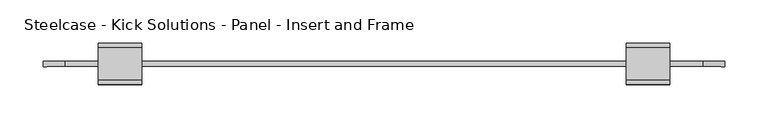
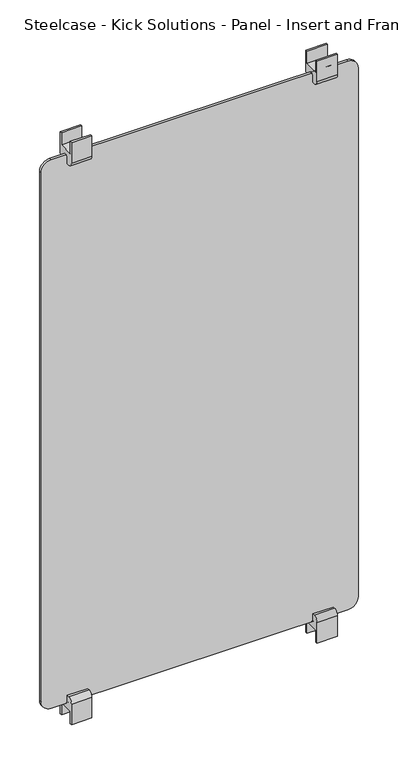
"""IFC4 building model written with IfcOpenShell, lengths in millimetres: furniture geometry, Steelcase - Kick Solutions - Panel - Insert and Frame : Laminate - 66H x 36W."""

from ifc_helpers import new_model, si_unit, point, frame, frame_2d, origin, place, context, project, spatial, polyline, circle_curve, trimmed, segment, composite_curve, outline, extrude, source, transform, mapped, element, save


def steelcase_kick_solutions_panel_insert_and_frame_b636e8bc(model_context):
    return source(origin(), model_context, "Body", "SweptSolid", [
        extrude(outline(composite_curve([segment(polyline([(5.3821989, 1651.0), (10.144699, 1651.0), (10.144699, 1596.313221)]), True, "CONTINUOUS"), segment(trimmed(circle_curve(frame_2d((-1.6831687, 1596.313221)), 11.8278677), [point((10.144699, 1596.313221))], [point((-1.6831687, 1584.4853533))], False, "CARTESIAN"), True, "CONTINUOUS"), segment(polyline([(-1.6831687, 1584.4853533), (-7.3178012, 1584.4853533), (-7.3178012, 1599.8857521)]), True, "CONTINUOUS"), segment(trimmed(circle_curve(frame_2d((-13.667801, 1599.8857521)), 6.3499998), [point((-7.3178012, 1599.8857521))], [point((-20.0178007, 1599.8857521))], True, "CARTESIAN"), True, "CONTINUOUS"), segment(polyline([(-20.0178007, 1599.8857521), (-20.0178007, 1584.4853527), (-25.2074988, 1584.4853527)]), True, "CONTINUOUS"), segment(trimmed(circle_curve(frame_2d((-25.2074988, 1596.7581549)), 12.2728022), [point((-25.2074988, 1584.4853527))], [point((-37.480301, 1596.7581549))], False, "CARTESIAN"), True, "CONTINUOUS"), segment(polyline([(-37.480301, 1596.7581549), (-37.480301, 1651.0), (-32.7177988, 1651.0), (-32.7177988, 1619.2499758), (5.3821989, 1619.2499758), (5.3821989, 1651.0)]), True, "CONTINUOUS")], self_intersect=False)), frame((737.5148583, 0.0, 0.0), z_axis=(1.0, 0.0, 0.0), x_axis=(0.0, 1.0, 0.0)), (0.0, 0.0, 1.0), 50.8),
        extrude(outline(composite_curve([segment(polyline([(5.3821989, 120.6499576), (5.3821989, 152.3999815), (-32.7177988, 152.3999815), (-32.7177988, 120.6499576), (-37.480301, 120.6499576), (-37.480301, 174.8918024)]), True, "CONTINUOUS"), segment(trimmed(circle_curve(frame_2d((-25.2074988, 174.8918024)), 12.2728022), [point((-37.480301, 174.8918024))], [point((-25.2074988, 187.1646046))], False, "CARTESIAN"), True, "CONTINUOUS"), segment(polyline([(-25.2074988, 187.1646046), (-20.0178007, 187.1646046), (-20.0178007, 171.7642058)]), True, "CONTINUOUS"), segment(trimmed(circle_curve(frame_2d((-13.667801, 171.7642058)), 6.3499998), [point((-20.0178007, 171.7642058))], [point((-7.3178012, 171.7642058))], True, "CARTESIAN"), True, "CONTINUOUS"), segment(polyline([(-7.3178012, 171.7642058), (-7.3178012, 187.1646046), (-1.6831687, 187.1646046)]), True, "CONTINUOUS"), segment(trimmed(circle_curve(frame_2d((-1.6831687, 175.3367369)), 11.8278677), [point((-1.6831687, 187.1646046))], [point((10.144699, 175.3367369))], False, "CARTESIAN"), True, "CONTINUOUS"), segment(polyline([(10.144699, 175.3367369), (10.144699, 120.6499576), (5.3821989, 120.6499576)]), True, "CONTINUOUS")], self_intersect=False)), frame((737.5148583, 0.0, 0.0), z_axis=(1.0, 0.0, 0.0), x_axis=(0.0, 1.0, 0.0)), (0.0, 0.0, 1.0), 50.8),
        extrude(outline(composite_curve([segment(polyline([(5.3821989, 1651.0), (10.144699, 1651.0), (10.144699, 1596.3132204)]), True, "CONTINUOUS"), segment(trimmed(circle_curve(frame_2d((-1.6831684, 1596.3132204)), 11.8278674), [point((10.144699, 1596.3132204))], [point((-1.6831684, 1584.485353))], False, "CARTESIAN"), True, "CONTINUOUS"), segment(polyline([(-1.6831684, 1584.485353), (-7.3178009, 1584.485353), (-7.3178009, 1599.8857521)]), True, "CONTINUOUS"), segment(trimmed(circle_curve(frame_2d((-13.667801, 1599.8857521)), 6.3500001), [point((-7.3178009, 1599.8857521))], [point((-20.017801, 1599.8857521))], True, "CARTESIAN"), True, "CONTINUOUS"), segment(polyline([(-20.017801, 1599.8857521), (-20.017801, 1584.485353), (-25.2074991, 1584.485353)]), True, "CONTINUOUS"), segment(trimmed(circle_curve(frame_2d((-25.2074991, 1596.7581549)), 12.2728019), [point((-25.2074991, 1584.485353))], [point((-37.480301, 1596.7581549))], False, "CARTESIAN"), True, "CONTINUOUS"), segment(polyline([(-37.480301, 1596.7581549), (-37.480301, 1651.0), (-32.7177988, 1651.0), (-32.7177988, 1619.2499758), (5.3821989, 1619.2499758), (5.3821989, 1651.0)]), True, "CONTINUOUS")], self_intersect=False)), frame((126.0851417, 0.0, 0.0), z_axis=(1.0, 0.0, 0.0), x_axis=(0.0, 1.0, 0.0)), (0.0, 0.0, 1.0), 50.8),
        extrude(outline(composite_curve([segment(polyline([(5.3821989, 120.6499576), (5.3821989, 152.3999818), (-32.7177988, 152.3999818), (-32.7177988, 120.6499576), (-37.480301, 120.6499576), (-37.480301, 174.8918027)]), True, "CONTINUOUS"), segment(trimmed(circle_curve(frame_2d((-25.2074991, 174.8918027)), 12.2728019), [point((-37.480301, 174.8918027))], [point((-25.2074991, 187.1646046))], False, "CARTESIAN"), True, "CONTINUOUS"), segment(polyline([(-25.2074991, 187.1646046), (-20.017801, 187.1646046), (-20.017801, 171.7642055)]), True, "CONTINUOUS"), segment(trimmed(circle_curve(frame_2d((-13.667801, 171.7642055)), 6.3500001), [point((-20.017801, 171.7642055))], [point((-7.3178009, 171.7642055))], True, "CARTESIAN"), True, "CONTINUOUS"), segment(polyline([(-7.3178009, 171.7642055), (-7.3178009, 187.1646041), (-1.6831684, 187.1646041)]), True, "CONTINUOUS"), segment(trimmed(circle_curve(frame_2d((-1.6831684, 175.3367366)), 11.8278674), [point((-1.6831684, 187.1646041))], [point((10.144699, 175.3367366))], False, "CARTESIAN"), True, "CONTINUOUS"), segment(polyline([(10.144699, 175.3367366), (10.144699, 120.6499576), (5.3821989, 120.6499576)]), True, "CONTINUOUS")], self_intersect=False)), frame((126.0851417, 0.0, 0.0), z_axis=(1.0, 0.0, 0.0), x_axis=(0.0, 1.0, 0.0)), (0.0, 0.0, 1.0), 50.8),
        extrude(outline(composite_curve([segment(polyline([(1606.5499516, 826.4148583), (1606.5499516, 87.9851417)]), True, "CONTINUOUS"), segment(trimmed(circle_curve(frame_2d((1581.1499516, 87.9851417)), 25.4), [point((1606.5499516, 87.9851417))], [point((1581.1499516, 62.5851417))], False, "CARTESIAN"), True, "CONTINUOUS"), segment(polyline([(1581.1499516, 62.5851417), (190.5000061, 62.5851417)]), True, "CONTINUOUS"), segment(trimmed(circle_curve(frame_2d((190.5000061, 87.9851417)), 25.4), [point((190.5000061, 62.5851417))], [point((165.1000061, 87.9851417))], False, "CARTESIAN"), True, "CONTINUOUS"), segment(polyline([(165.1000061, 87.9851417), (165.1000061, 826.4148583)]), True, "CONTINUOUS"), segment(trimmed(circle_curve(frame_2d((190.5000061, 826.4148583)), 25.4), [point((165.1000061, 826.4148583))], [point((190.5000061, 851.8148583))], False, "CARTESIAN"), True, "CONTINUOUS"), segment(polyline([(190.5000061, 851.8148583), (1581.1499516, 851.8148583)]), True, "CONTINUOUS"), segment(trimmed(circle_curve(frame_2d((1581.1499516, 826.4148583)), 25.4), [point((1581.1499516, 851.8148583))], [point((1606.5499516, 826.4148583))], False, "CARTESIAN"), True, "CONTINUOUS")], self_intersect=False)), frame((0.0, -16.8428004, 0.0), z_axis=(0.0, 1.0, 0.0), x_axis=(0.0, 0.0, 1.0)), (0.0, 0.0, 1.0), 6.3499985),
    ])


if __name__ == "__main__":
    model = new_model("IFC4")
    model_context = context("Model", 3, world=origin())
    ifc_project = project(units=[si_unit("LENGTHUNIT", "METRE", prefix="MILLI")], contexts=[model_context])
    site = spatial("IfcSite", under=ifc_project)
    building = spatial("IfcBuilding", under=site)
    placement = place(None, origin())
    steelcase_kick_solutions_panel_insert_and_frame_shape = steelcase_kick_solutions_panel_insert_and_frame_b636e8bc(model_context)
    element("IfcFurniture", 1, ObjectType="Steelcase - Kick Solutions - Panel - Insert and Frame : Laminate - 66H x 36W", at=placement, inside=building, context=model_context, shape_type="MappedRepresentation", body=[
        mapped(steelcase_kick_solutions_panel_insert_and_frame_shape, transform((0.0, 0.0, 0.0), x_axis=(1.0, 0.0, 0.0), y_axis=(0.0, 1.0, 0.0), z_axis=(0.0, 0.0, 1.0))),
    ])
    save(model, "model.ifc")
